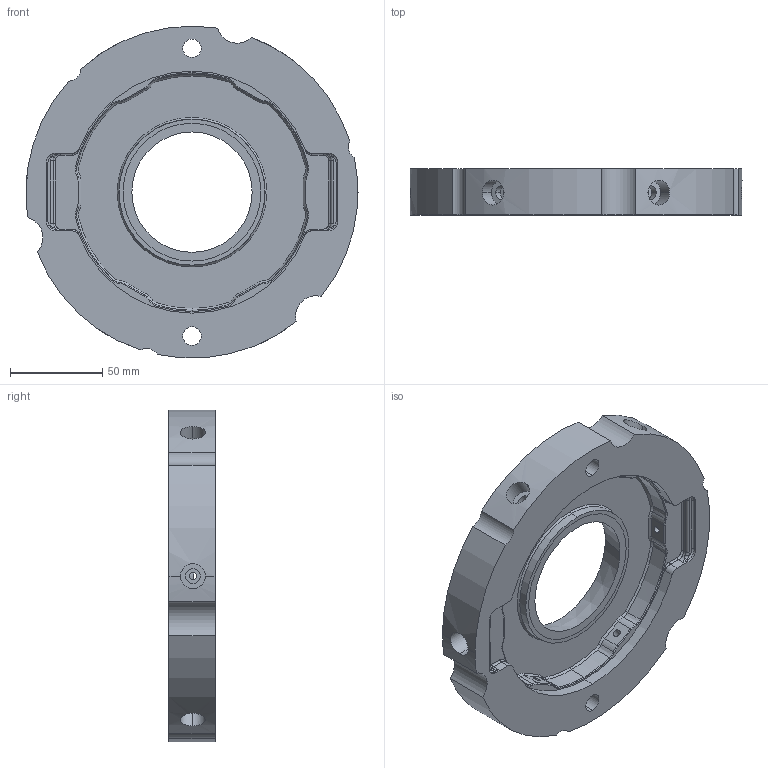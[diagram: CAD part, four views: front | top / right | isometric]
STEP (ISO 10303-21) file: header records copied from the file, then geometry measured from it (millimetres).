
FILE_DESCRIPTION (( 'STEP AP203' ), '1' );
FILE_NAME ('Ìàòðèöà.STEP', '2025-02-03T07:17:36', ( '' ), ( '' ), 'SwSTEP 2.0', 'SolidWorks 2021', '' );
FILE_SCHEMA (( 'CONFIG_CONTROL_DESIGN' ));
Length unit declared in the file: millimetre
Products named in the file (1): Ìàòðèöà
Bounding box: 180 x 25 x 179.83 mm (x, y, z)
Volume: 367027.9 mm3; surface area: 73855.5 mm2
Topology: 1 solids, 1 shells, 253 faces, 603 edges, 359 vertices
Faces by surface type: cylinder 102, bspline 52, plane 40, cone 32, torus 27
Entity records: 9226 total; most frequent: CARTESIAN_POINT 3546, ORIENTED_EDGE 1190, DIRECTION 1155, EDGE_CURVE 595, AXIS2_PLACEMENT_3D 488, VERTEX_POINT 359, EDGE_LOOP 286, CIRCLE 286
